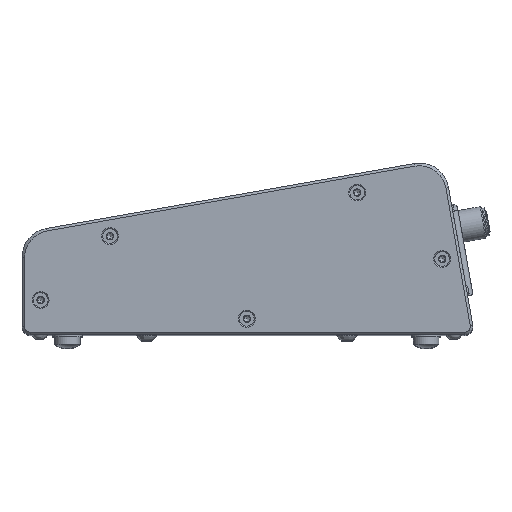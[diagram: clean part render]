
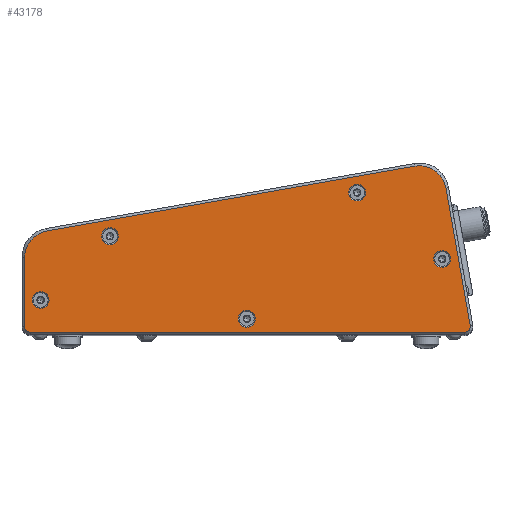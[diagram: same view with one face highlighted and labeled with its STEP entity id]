
A CAD part, top view. The second image highlights one B-rep face of the part: STEP entity #43178.
In plain terms, the highlighted planar face has unit normal (0, 0, 1).
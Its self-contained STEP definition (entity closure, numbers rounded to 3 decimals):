
#21 = VERTEX_POINT ( 'NONE', #9837 ) ;
#825 = DIRECTION ( 'NONE',  ( -0.985, -0.174, 0. ) ) ;
#1079 = FACE_BOUND ( 'NONE', #5366, .T. ) ;
#2318 = DIRECTION ( 'NONE',  ( 1., 0., 0. ) ) ;
#2577 = DIRECTION ( 'NONE',  ( 1., 0., 0. ) ) ;
#3266 = CIRCLE ( 'NONE', #137811, 10. ) ;
#4667 = CARTESIAN_POINT ( 'NONE',  ( -68.05, -18.82, 92. ) ) ;
#5366 = EDGE_LOOP ( 'NONE', ( #53896 ) ) ;
#5835 = DIRECTION ( 'NONE',  ( 1., 0., 0. ) ) ;
#7187 = VERTEX_POINT ( 'NONE', #21432 ) ;
#7799 = VERTEX_POINT ( 'NONE', #53748 ) ;
#8086 = ORIENTED_EDGE ( 'NONE', *, *, #62484, .F. ) ;
#9837 = CARTESIAN_POINT ( 'NONE',  ( -42.094, 5.113, 92. ) ) ;
#9922 = EDGE_CURVE ( 'NONE', #107713, #107713, #48601, .T. ) ;
#12448 = AXIS2_PLACEMENT_3D ( 'NONE', #140723, #39797, #75089 ) ;
#13414 = VERTEX_POINT ( 'NONE', #46652 ) ;
#13549 = CARTESIAN_POINT ( 'NONE',  ( 82.772, 10.461, 92. ) ) ;
#14633 = FACE_BOUND ( 'NONE', #53435, .T. ) ;
#15370 = CARTESIAN_POINT ( 'NONE',  ( 79.127, -3.42, 92. ) ) ;
#18475 = DIRECTION ( 'NONE',  ( 0., 0., 1. ) ) ;
#21432 = CARTESIAN_POINT ( 'NONE',  ( -75.2, -30.82, 92. ) ) ;
#23068 = CARTESIAN_POINT ( 'NONE',  ( 50.478, 21.436, 92. ) ) ;
#23429 = DIRECTION ( 'NONE',  ( 0., -1., 0. ) ) ;
#25587 = DIRECTION ( 'NONE',  ( 0., 0., 1. ) ) ;
#25953 = ORIENTED_EDGE ( 'NONE', *, *, #36338, .T. ) ;
#26001 = EDGE_CURVE ( 'NONE', #21, #21, #37723, .T. ) ;
#26777 = CARTESIAN_POINT ( 'NONE',  ( 82.277, -3.42, 92. ) ) ;
#27188 = LINE ( 'NONE', #139955, #99212 ) ;
#28516 = DIRECTION ( 'NONE',  ( 0., 0., 1. ) ) ;
#29654 = DIRECTION ( 'NONE',  ( 1., 0., 0. ) ) ;
#29735 = CARTESIAN_POINT ( 'NONE',  ( 87.668, -30.82, 92. ) ) ;
#29777 = DIRECTION ( 'NONE',  ( 1., 0., 0. ) ) ;
#34080 = VECTOR ( 'NONE', #825, 1000. ) ;
#35429 = LINE ( 'NONE', #13549, #133351 ) ;
#35989 = CARTESIAN_POINT ( 'NONE',  ( -77.2, -28.82, 92. ) ) ;
#36091 = ORIENTED_EDGE ( 'NONE', *, *, #121723, .T. ) ;
#36338 = EDGE_CURVE ( 'NONE', #7187, #102837, #27188, .T. ) ;
#36971 = CARTESIAN_POINT ( 'NONE',  ( -7.267, 17.902, 92. ) ) ;
#37122 = AXIS2_PLACEMENT_3D ( 'NONE', #128546, #25587, #46710 ) ;
#37723 = CIRCLE ( 'NONE', #92919, 3.15 ) ;
#39337 = EDGE_CURVE ( 'NONE', #13414, #92561, #103804, .T. ) ;
#39784 = CARTESIAN_POINT ( 'NONE',  ( 47.328, 21.436, 92. ) ) ;
#39797 = DIRECTION ( 'NONE',  ( 0., 0., 1. ) ) ;
#41879 = CIRCLE ( 'NONE', #51537, 3.15 ) ;
#43178 = ADVANCED_FACE ( 'NONE', ( #104111, #71106, #1079, #139491, #14633, #70341 ), #116919, .T. ) ;
#46400 = VERTEX_POINT ( 'NONE', #23068 ) ;
#46652 = CARTESIAN_POINT ( 'NONE',  ( -77.2, -2.82, 92. ) ) ;
#46710 = DIRECTION ( 'NONE',  ( 1., 0., 0. ) ) ;
#47045 = ORIENTED_EDGE ( 'NONE', *, *, #148393, .T. ) ;
#48129 = EDGE_CURVE ( 'NONE', #46400, #46400, #41879, .T. ) ;
#48601 = CIRCLE ( 'NONE', #12448, 3.15 ) ;
#49291 = DIRECTION ( 'NONE',  ( 0., 0., 1. ) ) ;
#50014 = CARTESIAN_POINT ( 'NONE',  ( -67.2, -2.82, 92. ) ) ;
#51537 = AXIS2_PLACEMENT_3D ( 'NONE', #39784, #28516, #5835 ) ;
#51554 = DIRECTION ( 'NONE',  ( 0., 0., 1. ) ) ;
#53435 = EDGE_LOOP ( 'NONE', ( #99451 ) ) ;
#53748 = CARTESIAN_POINT ( 'NONE',  ( 9.12, -25.82, 92. ) ) ;
#53896 = ORIENTED_EDGE ( 'NONE', *, *, #9922, .F. ) ;
#55054 = AXIS2_PLACEMENT_3D ( 'NONE', #50014, #49291, #95763 ) ;
#56085 = CIRCLE ( 'NONE', #140103, 3.15 ) ;
#57585 = DIRECTION ( 'NONE',  ( 0., 0., 1. ) ) ;
#58060 = LINE ( 'NONE', #36971, #34080 ) ;
#59789 = CARTESIAN_POINT ( 'NONE',  ( -3.28, -4.712, 92. ) ) ;
#60042 = CARTESIAN_POINT ( 'NONE',  ( 5.97, -25.82, 92. ) ) ;
#60902 = VERTEX_POINT ( 'NONE', #122599 ) ;
#61621 = AXIS2_PLACEMENT_3D ( 'NONE', #143239, #51554, #131194 ) ;
#62254 = CIRCLE ( 'NONE', #55054, 10. ) ;
#62484 = EDGE_CURVE ( 'NONE', #141031, #141031, #89053, .T. ) ;
#63503 = VERTEX_POINT ( 'NONE', #90248 ) ;
#65493 = VERTEX_POINT ( 'NONE', #106060 ) ;
#68854 = EDGE_CURVE ( 'NONE', #63503, #123199, #3266, .T. ) ;
#70341 = FACE_OUTER_BOUND ( 'NONE', #145650, .T. ) ;
#70443 = EDGE_CURVE ( 'NONE', #7799, #7799, #56085, .T. ) ;
#70590 = DIRECTION ( 'NONE',  ( 0., 0., 1. ) ) ;
#71106 = FACE_BOUND ( 'NONE', #123702, .T. ) ;
#71958 = EDGE_LOOP ( 'NONE', ( #8086 ) ) ;
#75089 = DIRECTION ( 'NONE',  ( 1., 0., 0. ) ) ;
#80586 = CARTESIAN_POINT ( 'NONE',  ( -77.2, -4.712, 92. ) ) ;
#80814 = VECTOR ( 'NONE', #23429, 1000. ) ;
#83653 = ORIENTED_EDGE ( 'NONE', *, *, #123552, .T. ) ;
#86712 = DIRECTION ( 'NONE',  ( 0., 0., 1. ) ) ;
#87659 = ORIENTED_EDGE ( 'NONE', *, *, #48129, .F. ) ;
#89053 = CIRCLE ( 'NONE', #117994, 3.15 ) ;
#90248 = CARTESIAN_POINT ( 'NONE',  ( 80.521, 23.227, 92. ) ) ;
#91576 = DIRECTION ( 'NONE',  ( 1., 0., 0. ) ) ;
#92561 = VERTEX_POINT ( 'NONE', #35989 ) ;
#92919 = AXIS2_PLACEMENT_3D ( 'NONE', #125399, #133120, #135938 ) ;
#94291 = EDGE_CURVE ( 'NONE', #123199, #65493, #58060, .T. ) ;
#95763 = DIRECTION ( 'NONE',  ( 1., 0., 0. ) ) ;
#99212 = VECTOR ( 'NONE', #2318, 1000. ) ;
#99451 = ORIENTED_EDGE ( 'NONE', *, *, #70443, .F. ) ;
#99841 = ORIENTED_EDGE ( 'NONE', *, *, #39337, .T. ) ;
#100486 = EDGE_CURVE ( 'NONE', #60902, #63503, #35429, .T. ) ;
#102837 = VERTEX_POINT ( 'NONE', #29735 ) ;
#103701 = EDGE_LOOP ( 'NONE', ( #140327 ) ) ;
#103804 = LINE ( 'NONE', #80586, #80814 ) ;
#104111 = FACE_BOUND ( 'NONE', #103701, .T. ) ;
#106060 = CARTESIAN_POINT ( 'NONE',  ( -68.937, 7.028, 92. ) ) ;
#107713 = VERTEX_POINT ( 'NONE', #4667 ) ;
#116205 = CIRCLE ( 'NONE', #37122, 2. ) ;
#116919 = PLANE ( 'NONE',  #129786 ) ;
#117911 = CARTESIAN_POINT ( 'NONE',  ( 68.937, 31.339, 92. ) ) ;
#117994 = AXIS2_PLACEMENT_3D ( 'NONE', #15370, #86712, #29654 ) ;
#121723 = EDGE_CURVE ( 'NONE', #102837, #60902, #116205, .T. ) ;
#122599 = CARTESIAN_POINT ( 'NONE',  ( 89.637, -28.473, 92. ) ) ;
#123199 = VERTEX_POINT ( 'NONE', #117911 ) ;
#123552 = EDGE_CURVE ( 'NONE', #92561, #7187, #126385, .T. ) ;
#123702 = EDGE_LOOP ( 'NONE', ( #87659 ) ) ;
#123706 = CARTESIAN_POINT ( 'NONE',  ( 70.673, 21.491, 92. ) ) ;
#125399 = CARTESIAN_POINT ( 'NONE',  ( -45.244, 5.113, 92. ) ) ;
#126385 = CIRCLE ( 'NONE', #61621, 2. ) ;
#127838 = DIRECTION ( 'NONE',  ( -0.174, 0.985, 0. ) ) ;
#128546 = CARTESIAN_POINT ( 'NONE',  ( 87.668, -28.82, 92. ) ) ;
#129786 = AXIS2_PLACEMENT_3D ( 'NONE', #59789, #57585, #2577 ) ;
#131194 = DIRECTION ( 'NONE',  ( 1., 0., 0. ) ) ;
#132738 = ORIENTED_EDGE ( 'NONE', *, *, #94291, .T. ) ;
#133008 = ORIENTED_EDGE ( 'NONE', *, *, #100486, .T. ) ;
#133120 = DIRECTION ( 'NONE',  ( 0., 0., 1. ) ) ;
#133351 = VECTOR ( 'NONE', #127838, 1000. ) ;
#135938 = DIRECTION ( 'NONE',  ( 1., 0., 0. ) ) ;
#137811 = AXIS2_PLACEMENT_3D ( 'NONE', #123706, #18475, #29777 ) ;
#139491 = FACE_BOUND ( 'NONE', #71958, .T. ) ;
#139955 = CARTESIAN_POINT ( 'NONE',  ( 87.668, -30.82, 92. ) ) ;
#140103 = AXIS2_PLACEMENT_3D ( 'NONE', #60042, #70590, #91576 ) ;
#140327 = ORIENTED_EDGE ( 'NONE', *, *, #26001, .F. ) ;
#140723 = CARTESIAN_POINT ( 'NONE',  ( -71.2, -18.82, 92. ) ) ;
#141031 = VERTEX_POINT ( 'NONE', #26777 ) ;
#143239 = CARTESIAN_POINT ( 'NONE',  ( -75.2, -28.82, 92. ) ) ;
#145650 = EDGE_LOOP ( 'NONE', ( #25953, #36091, #133008, #146062, #132738, #47045, #99841, #83653 ) ) ;
#146062 = ORIENTED_EDGE ( 'NONE', *, *, #68854, .T. ) ;
#148393 = EDGE_CURVE ( 'NONE', #65493, #13414, #62254, .T. ) ;
